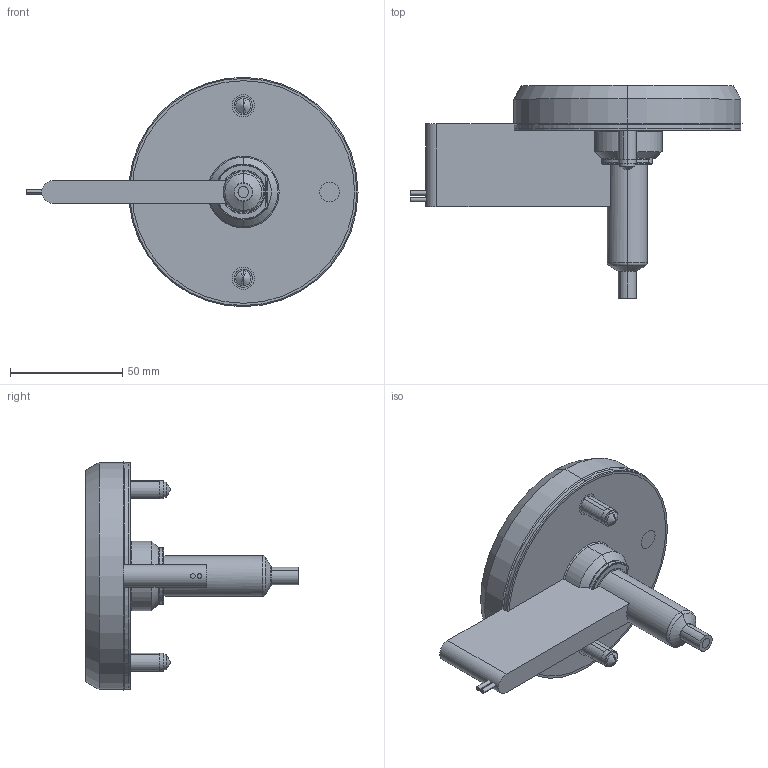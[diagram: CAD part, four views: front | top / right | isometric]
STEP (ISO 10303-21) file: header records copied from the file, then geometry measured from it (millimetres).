
FILE_DESCRIPTION (( 'STEP AP214' ), '1' );
FILE_NAME ('SOHSB4050-SOSRT0402.STEP', '2024-11-28T13:00:03', ( '' ), ( '' ), 'SwSTEP 2.0', 'SolidWorks 2022', '' );
FILE_SCHEMA (( 'AUTOMOTIVE_DESIGN' ));
Length unit declared in the file: millimetre
Products named in the file (9): socket head cap screw_iso_ISO 4762 M8 x 25 - 25N; EcoONE-HSB04-00002(A)_SOHSBLR04; EcoONE-HSB-04-Open Gate Cut-out Details_Ext Sprue Gate or Full Body Gate; EcoONE-HSB04-Open Gate Extended Sprue Tip_SOSRT0402; EcoONE-HSB04-04005(A)_SOTC10200-J; EcoONE-HSB04-04004(A)_SONH10047; SOHSB4050-SOSRT0402; EcoONE-HSB04-04003(A)_SOHSBNB4050; EcoONE-HSB04-04006(A)_SONHC04
Assembly tree (10 placements, depth 2):
  SOHSB4050-SOSRT0402
    EcoONE-HSB04-04003(A)_SOHSBNB4050
    EcoONE-HSB04-04004(A)_SONH10047
    EcoONE-HSB04-04005(A)_SOTC10200-J
    EcoONE-HSB04-04006(A)_SONHC04  x2
    EcoONE-HSB04-00002(A)_SOHSBLR04
    socket head cap screw_iso_ISO 4762 M8 x 25 - 25N  x2
    EcoONE-HSB04-Open Gate Extended Sprue Tip_SOSRT0402
    EcoONE-HSB-04-Open Gate Cut-out Details_Ext Sprue Gate or Full Body Gate
Bounding box: 148.2 x 95 x 102.4 mm (x, y, z)
Volume: 220151 mm3; surface area: 67018.9 mm2
Topology: 10 solids, 10 shells, 506 faces, 1269 edges, 794 vertices
Faces by surface type: cylinder 153, plane 135, bspline 97, cone 83, torus 30, sphere 8
Entity records: 25531 total; most frequent: CARTESIAN_POINT 14319, ORIENTED_EDGE 2314, DIRECTION 1962, EDGE_CURVE 1157, AXIS2_PLACEMENT_3D 791, VERTEX_POINT 731, EDGE_LOOP 502, FACE_OUTER_BOUND 463
